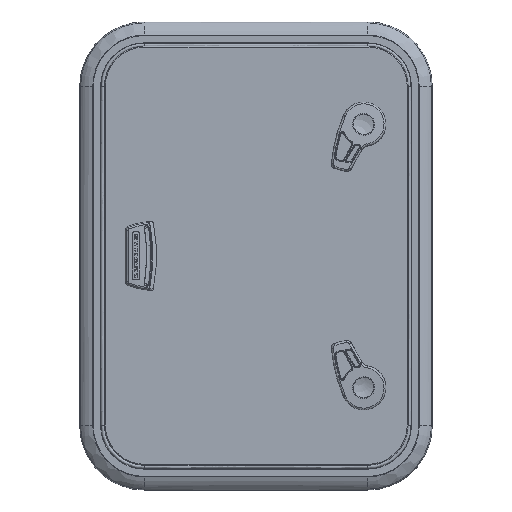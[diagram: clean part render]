
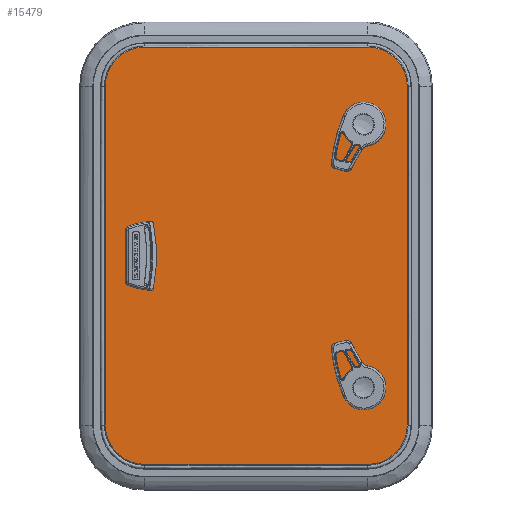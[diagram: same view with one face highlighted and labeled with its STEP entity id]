
A CAD part, top view. The second image highlights one B-rep face of the part: STEP entity #15479.
In plain terms, the highlighted planar face has unit normal (0, 0, 1) as drawn and (0, 1, 0) by its records, which use the part's own axes.
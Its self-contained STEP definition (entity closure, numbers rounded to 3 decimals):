
#14558=CARTESIAN_POINT('',(21.55,8.,-134.5));
#14559=DIRECTION('',(0.,-1.,0.));
#14560=DIRECTION('',(0.,0.,-1.));
#14561=AXIS2_PLACEMENT_3D('',#14558,#14559,#14560);
#14563=DIRECTION('',(1.,0.,0.));
#14564=VECTOR('',#14563,43.1);
#14565=CARTESIAN_POINT('',(-21.55,8.,-140.));
#14566=LINE('',#14565,#14564);
#14567=CARTESIAN_POINT('',(-21.55,8.,-134.5));
#14568=DIRECTION('',(0.,-1.,0.));
#14569=DIRECTION('',(0.,0.,1.));
#14570=AXIS2_PLACEMENT_3D('',#14567,#14568,#14569);
#14572=DIRECTION('',(-1.,0.,0.));
#14573=VECTOR('',#14572,43.1);
#14574=CARTESIAN_POINT('',(21.55,8.,-129.));
#14575=LINE('',#14574,#14573);
#14576=CARTESIAN_POINT('',(143.198,8.,124.117));
#14577=DIRECTION('',(0.,1.,0.));
#14578=DIRECTION('',(-0.866,0.,-0.5));
#14579=AXIS2_PLACEMENT_3D('',#14576,#14577,#14578);
#14581=DIRECTION('',(0.866,0.,0.5));
#14582=VECTOR('',#14581,5.2);
#14583=CARTESIAN_POINT('',(140.698,8.,128.447));
#14584=LINE('',#14583,#14582);
#14585=CARTESIAN_POINT('',(147.702,8.,126.717));
#14586=DIRECTION('',(0.,1.,0.));
#14587=DIRECTION('',(-0.5,0.,0.866));
#14588=AXIS2_PLACEMENT_3D('',#14585,#14586,#14587);
#14590=DIRECTION('',(0.5,0.,-0.866));
#14591=VECTOR('',#14590,10.2);
#14592=CARTESIAN_POINT('',(152.032,8.,129.217));
#14593=LINE('',#14592,#14591);
#14594=CARTESIAN_POINT('',(152.802,8.,117.883));
#14595=DIRECTION('',(0.,1.,0.));
#14596=DIRECTION('',(0.866,0.,0.5));
#14597=AXIS2_PLACEMENT_3D('',#14594,#14595,#14596);
#14599=DIRECTION('',(-0.866,0.,-0.5));
#14600=VECTOR('',#14599,5.2);
#14601=CARTESIAN_POINT('',(155.302,8.,113.553));
#14602=LINE('',#14601,#14600);
#14603=CARTESIAN_POINT('',(148.298,8.,115.283));
#14604=DIRECTION('',(0.,1.,0.));
#14605=DIRECTION('',(0.5,0.,-0.866));
#14606=AXIS2_PLACEMENT_3D('',#14603,#14604,#14605);
#14608=DIRECTION('',(-0.5,0.,0.866));
#14609=VECTOR('',#14608,10.2);
#14610=CARTESIAN_POINT('',(143.968,8.,112.783));
#14611=LINE('',#14610,#14609);
#14612=CARTESIAN_POINT('',(-143.198,8.,124.117));
#14613=DIRECTION('',(0.,-1.,0.));
#14614=DIRECTION('',(0.866,0.,-0.5));
#14615=AXIS2_PLACEMENT_3D('',#14612,#14613,#14614);
#14617=DIRECTION('',(0.5,0.,0.866));
#14618=VECTOR('',#14617,10.2);
#14619=CARTESIAN_POINT('',(-143.968,8.,112.783));
#14620=LINE('',#14619,#14618);
#14621=CARTESIAN_POINT('',(-148.298,8.,115.283));
#14622=DIRECTION('',(0.,-1.,0.));
#14623=DIRECTION('',(-0.5,0.,-0.866));
#14624=AXIS2_PLACEMENT_3D('',#14621,#14622,#14623);
#14626=DIRECTION('',(0.866,0.,-0.5));
#14627=VECTOR('',#14626,5.2);
#14628=CARTESIAN_POINT('',(-155.302,8.,113.553));
#14629=LINE('',#14628,#14627);
#14630=CARTESIAN_POINT('',(-152.802,8.,117.883));
#14631=DIRECTION('',(0.,-1.,0.));
#14632=DIRECTION('',(-0.866,0.,0.5));
#14633=AXIS2_PLACEMENT_3D('',#14630,#14631,#14632);
#14635=DIRECTION('',(-0.5,0.,-0.866));
#14636=VECTOR('',#14635,10.2);
#14637=CARTESIAN_POINT('',(-152.032,8.,129.217));
#14638=LINE('',#14637,#14636);
#14639=CARTESIAN_POINT('',(-147.702,8.,126.717));
#14640=DIRECTION('',(0.,-1.,0.));
#14641=DIRECTION('',(0.5,0.,0.866));
#14642=AXIS2_PLACEMENT_3D('',#14639,#14640,#14641);
#14644=DIRECTION('',(-0.866,0.,0.5));
#14645=VECTOR('',#14644,5.2);
#14646=CARTESIAN_POINT('',(-140.698,8.,128.447));
#14647=LINE('',#14646,#14645);
#14648=DIRECTION('',(-1.,0.,0.));
#14649=VECTOR('',#14648,381.);
#14650=CARTESIAN_POINT('',(190.5,8.,-170.));
#14651=LINE('',#14650,#14649);
#14652=CARTESIAN_POINT('',(190.5,8.,-125.5));
#14653=DIRECTION('',(0.,1.,0.));
#14654=DIRECTION('',(1.,0.,0.));
#14655=AXIS2_PLACEMENT_3D('',#14652,#14653,#14654);
#14657=DIRECTION('',(0.,0.,-1.));
#14658=VECTOR('',#14657,251.);
#14659=CARTESIAN_POINT('',(235.,8.,125.5));
#14660=LINE('',#14659,#14658);
#14661=CARTESIAN_POINT('',(190.5,8.,125.5));
#14662=DIRECTION('',(0.,1.,0.));
#14663=DIRECTION('',(0.,0.,1.));
#14664=AXIS2_PLACEMENT_3D('',#14661,#14662,#14663);
#14666=DIRECTION('',(1.,0.,0.));
#14667=VECTOR('',#14666,381.);
#14668=CARTESIAN_POINT('',(-190.5,8.,170.));
#14669=LINE('',#14668,#14667);
#14670=CARTESIAN_POINT('',(-190.5,8.,125.5));
#14671=DIRECTION('',(0.,1.,0.));
#14672=DIRECTION('',(-1.,0.,0.));
#14673=AXIS2_PLACEMENT_3D('',#14670,#14671,#14672);
#14675=DIRECTION('',(0.,0.,1.));
#14676=VECTOR('',#14675,251.);
#14677=CARTESIAN_POINT('',(-235.,8.,-125.5));
#14678=LINE('',#14677,#14676);
#14679=CARTESIAN_POINT('',(-190.5,8.,-125.5));
#14680=DIRECTION('',(0.,1.,0.));
#14681=DIRECTION('',(0.,0.,-1.));
#14682=AXIS2_PLACEMENT_3D('',#14679,#14680,#14681);
#15258=CARTESIAN_POINT('',(21.55,8.,-140.));
#15259=CARTESIAN_POINT('',(21.55,8.,-129.));
#15260=VERTEX_POINT('',#15258);
#15261=VERTEX_POINT('',#15259);
#15262=CARTESIAN_POINT('',(-21.55,8.,-129.));
#15263=VERTEX_POINT('',#15262);
#15264=CARTESIAN_POINT('',(-21.55,8.,-140.));
#15265=VERTEX_POINT('',#15264);
#15314=CARTESIAN_POINT('',(-138.868,8.,121.617));
#15315=CARTESIAN_POINT('',(-140.698,8.,128.447));
#15316=VERTEX_POINT('',#15314);
#15317=VERTEX_POINT('',#15315);
#15318=CARTESIAN_POINT('',(-145.202,8.,131.047));
#15319=VERTEX_POINT('',#15318);
#15320=CARTESIAN_POINT('',(-152.032,8.,129.217));
#15321=VERTEX_POINT('',#15320);
#15322=CARTESIAN_POINT('',(-157.132,8.,120.383));
#15323=VERTEX_POINT('',#15322);
#15324=CARTESIAN_POINT('',(-155.302,8.,113.553));
#15325=VERTEX_POINT('',#15324);
#15326=CARTESIAN_POINT('',(-150.798,8.,110.953));
#15327=VERTEX_POINT('',#15326);
#15328=CARTESIAN_POINT('',(-143.968,8.,112.783));
#15329=VERTEX_POINT('',#15328);
#15346=CARTESIAN_POINT('',(138.868,8.,121.617));
#15347=CARTESIAN_POINT('',(140.698,8.,128.447));
#15348=VERTEX_POINT('',#15346);
#15349=VERTEX_POINT('',#15347);
#15350=CARTESIAN_POINT('',(145.202,8.,131.047));
#15351=VERTEX_POINT('',#15350);
#15352=CARTESIAN_POINT('',(152.032,8.,129.217));
#15353=VERTEX_POINT('',#15352);
#15354=CARTESIAN_POINT('',(157.132,8.,120.383));
#15355=VERTEX_POINT('',#15354);
#15356=CARTESIAN_POINT('',(155.302,8.,113.553));
#15357=VERTEX_POINT('',#15356);
#15358=CARTESIAN_POINT('',(150.798,8.,110.953));
#15359=VERTEX_POINT('',#15358);
#15360=CARTESIAN_POINT('',(143.968,8.,112.783));
#15361=VERTEX_POINT('',#15360);
#15362=CARTESIAN_POINT('',(190.5,8.,-170.));
#15363=CARTESIAN_POINT('',(-190.5,8.,-170.));
#15364=VERTEX_POINT('',#15362);
#15365=VERTEX_POINT('',#15363);
#15366=CARTESIAN_POINT('',(-235.,8.,-125.5));
#15367=VERTEX_POINT('',#15366);
#15368=CARTESIAN_POINT('',(-235.,8.,125.5));
#15369=VERTEX_POINT('',#15368);
#15370=CARTESIAN_POINT('',(-190.5,8.,170.));
#15371=VERTEX_POINT('',#15370);
#15372=CARTESIAN_POINT('',(190.5,8.,170.));
#15373=VERTEX_POINT('',#15372);
#15374=CARTESIAN_POINT('',(235.,8.,125.5));
#15375=VERTEX_POINT('',#15374);
#15376=CARTESIAN_POINT('',(235.,8.,-125.5));
#15377=VERTEX_POINT('',#15376);
#15410=CARTESIAN_POINT('',(0.,8.,0.));
#15411=DIRECTION('',(0.,1.,0.));
#15412=DIRECTION('',(1.,0.,0.));
#15413=AXIS2_PLACEMENT_3D('',#15410,#15411,#15412);
#15414=PLANE('',#15413);
#15416=ORIENTED_EDGE('',*,*,#15415,.F.);
#15418=ORIENTED_EDGE('',*,*,#15417,.F.);
#15420=ORIENTED_EDGE('',*,*,#15419,.F.);
#15422=ORIENTED_EDGE('',*,*,#15421,.F.);
#15424=ORIENTED_EDGE('',*,*,#15423,.F.);
#15426=ORIENTED_EDGE('',*,*,#15425,.F.);
#15428=ORIENTED_EDGE('',*,*,#15427,.F.);
#15430=ORIENTED_EDGE('',*,*,#15429,.F.);
#15431=EDGE_LOOP('',(#15416,#15418,#15420,#15422,#15424,#15426,#15428,#15430));
#15432=FACE_OUTER_BOUND('',#15431,.F.);
#15434=ORIENTED_EDGE('',*,*,#15433,.F.);
#15436=ORIENTED_EDGE('',*,*,#15435,.F.);
#15438=ORIENTED_EDGE('',*,*,#15437,.F.);
#15440=ORIENTED_EDGE('',*,*,#15439,.F.);
#15441=EDGE_LOOP('',(#15434,#15436,#15438,#15440));
#15442=FACE_BOUND('',#15441,.F.);
#15444=ORIENTED_EDGE('',*,*,#15443,.T.);
#15446=ORIENTED_EDGE('',*,*,#15445,.T.);
#15448=ORIENTED_EDGE('',*,*,#15447,.T.);
#15450=ORIENTED_EDGE('',*,*,#15449,.T.);
#15452=ORIENTED_EDGE('',*,*,#15451,.T.);
#15454=ORIENTED_EDGE('',*,*,#15453,.T.);
#15456=ORIENTED_EDGE('',*,*,#15455,.T.);
#15458=ORIENTED_EDGE('',*,*,#15457,.T.);
#15459=EDGE_LOOP('',(#15444,#15446,#15448,#15450,#15452,#15454,#15456,#15458));
#15460=FACE_BOUND('',#15459,.F.);
#15462=ORIENTED_EDGE('',*,*,#15461,.F.);
#15464=ORIENTED_EDGE('',*,*,#15463,.F.);
#15466=ORIENTED_EDGE('',*,*,#15465,.F.);
#15468=ORIENTED_EDGE('',*,*,#15467,.F.);
#15470=ORIENTED_EDGE('',*,*,#15469,.F.);
#15472=ORIENTED_EDGE('',*,*,#15471,.F.);
#15474=ORIENTED_EDGE('',*,*,#15473,.F.);
#15476=ORIENTED_EDGE('',*,*,#15475,.F.);
#15477=EDGE_LOOP('',(#15462,#15464,#15466,#15468,#15470,#15472,#15474,#15476));
#15478=FACE_BOUND('',#15477,.F.);
#15479=ADVANCED_FACE('',(#15432,#15442,#15460,#15478),#15414,.T.);
#14562=CIRCLE('',#14561,5.5);
#14571=CIRCLE('',#14570,5.5);
#14580=CIRCLE('',#14579,5.);
#14589=CIRCLE('',#14588,5.);
#14598=CIRCLE('',#14597,5.);
#14607=CIRCLE('',#14606,5.);
#14616=CIRCLE('',#14615,5.);
#14625=CIRCLE('',#14624,5.);
#14634=CIRCLE('',#14633,5.);
#14643=CIRCLE('',#14642,5.);
#14656=CIRCLE('',#14655,44.5);
#14665=CIRCLE('',#14664,44.5);
#14674=CIRCLE('',#14673,44.5);
#14683=CIRCLE('',#14682,44.5);
#15415=EDGE_CURVE('',#15364,#15365,#14651,.T.);
#15417=EDGE_CURVE('',#15377,#15364,#14656,.T.);
#15419=EDGE_CURVE('',#15375,#15377,#14660,.T.);
#15421=EDGE_CURVE('',#15373,#15375,#14665,.T.);
#15423=EDGE_CURVE('',#15371,#15373,#14669,.T.);
#15425=EDGE_CURVE('',#15369,#15371,#14674,.T.);
#15427=EDGE_CURVE('',#15367,#15369,#14678,.T.);
#15429=EDGE_CURVE('',#15365,#15367,#14683,.T.);
#15433=EDGE_CURVE('',#15260,#15261,#14562,.T.);
#15435=EDGE_CURVE('',#15265,#15260,#14566,.T.);
#15437=EDGE_CURVE('',#15263,#15265,#14571,.T.);
#15439=EDGE_CURVE('',#15261,#15263,#14575,.T.);
#15443=EDGE_CURVE('',#15348,#15349,#14580,.T.);
#15445=EDGE_CURVE('',#15349,#15351,#14584,.T.);
#15447=EDGE_CURVE('',#15351,#15353,#14589,.T.);
#15449=EDGE_CURVE('',#15353,#15355,#14593,.T.);
#15451=EDGE_CURVE('',#15355,#15357,#14598,.T.);
#15453=EDGE_CURVE('',#15357,#15359,#14602,.T.);
#15455=EDGE_CURVE('',#15359,#15361,#14607,.T.);
#15457=EDGE_CURVE('',#15361,#15348,#14611,.T.);
#15461=EDGE_CURVE('',#15316,#15317,#14616,.T.);
#15463=EDGE_CURVE('',#15329,#15316,#14620,.T.);
#15465=EDGE_CURVE('',#15327,#15329,#14625,.T.);
#15467=EDGE_CURVE('',#15325,#15327,#14629,.T.);
#15469=EDGE_CURVE('',#15323,#15325,#14634,.T.);
#15471=EDGE_CURVE('',#15321,#15323,#14638,.T.);
#15473=EDGE_CURVE('',#15319,#15321,#14643,.T.);
#15475=EDGE_CURVE('',#15317,#15319,#14647,.T.);
